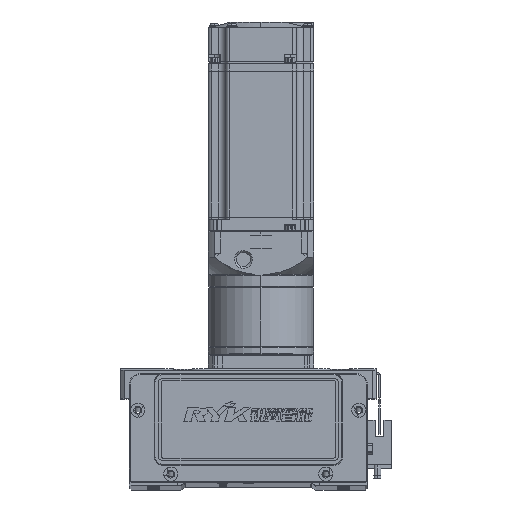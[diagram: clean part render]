
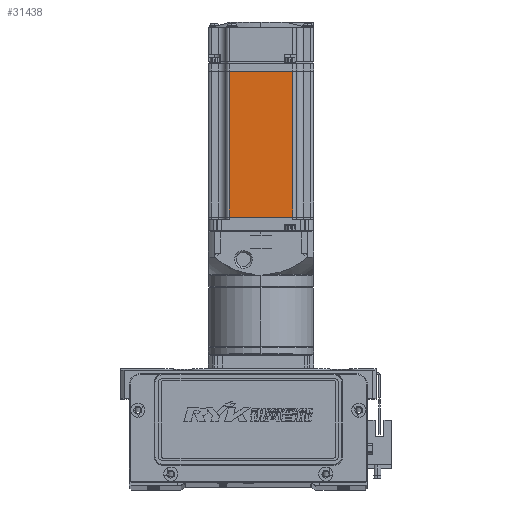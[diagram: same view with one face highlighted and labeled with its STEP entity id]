
A CAD part, top view. The second image highlights one B-rep face of the part: STEP entity #31438.
In plain terms, the highlighted planar face has unit normal (0, 0, 1).
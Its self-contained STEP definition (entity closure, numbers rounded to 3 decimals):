
#2662 = LINE ( 'NONE', #41594, #71873 ) ;
#3227 = PLANE ( 'NONE',  #10774 ) ;
#4185 = VERTEX_POINT ( 'NONE', #62321 ) ;
#7258 = EDGE_CURVE ( 'NONE', #12656, #53605, #2662, .T. ) ;
#9299 = CARTESIAN_POINT ( 'NONE',  ( -6.5, -25., 30. ) ) ;
#10405 = LINE ( 'NONE', #30417, #62796 ) ;
#10774 = AXIS2_PLACEMENT_3D ( 'NONE', #9299, #75146, #62852 ) ;
#12124 = ORIENTED_EDGE ( 'NONE', *, *, #17634, .F. ) ;
#12656 = VERTEX_POINT ( 'NONE', #38130 ) ;
#13417 = ORIENTED_EDGE ( 'NONE', *, *, #7258, .T. ) ;
#17538 = DIRECTION ( 'NONE',  ( 0., -1., 0. ) ) ;
#17634 = EDGE_CURVE ( 'NONE', #20215, #4185, #75536, .T. ) ;
#18297 = CARTESIAN_POINT ( 'NONE',  ( -7.75, 0., 30. ) ) ;
#20215 = VERTEX_POINT ( 'NONE', #32199 ) ;
#25497 = EDGE_CURVE ( 'NONE', #12656, #20215, #52654, .T. ) ;
#29381 = ORIENTED_EDGE ( 'NONE', *, *, #77319, .T. ) ;
#30417 = CARTESIAN_POINT ( 'NONE',  ( -90.45, 0., 30. ) ) ;
#30516 = FACE_OUTER_BOUND ( 'NONE', #71390, .T. ) ;
#31438 = ADVANCED_FACE ( 'NONE', ( #30516 ), #3227, .T. ) ;
#32199 = CARTESIAN_POINT ( 'NONE',  ( -7.75, -18., 30. ) ) ;
#38130 = CARTESIAN_POINT ( 'NONE',  ( -7.75, 18., 30. ) ) ;
#40157 = CARTESIAN_POINT ( 'NONE',  ( -90.45, 18., 30. ) ) ;
#41594 = CARTESIAN_POINT ( 'NONE',  ( -6.5, 18., 30. ) ) ;
#49235 = CARTESIAN_POINT ( 'NONE',  ( -6.5, -18., 30. ) ) ;
#51731 = VECTOR ( 'NONE', #17538, 1000. ) ;
#52654 = LINE ( 'NONE', #18297, #51731 ) ;
#53605 = VERTEX_POINT ( 'NONE', #40157 ) ;
#54896 = DIRECTION ( 'NONE',  ( 0., -1., 0. ) ) ;
#61452 = DIRECTION ( 'NONE',  ( -1., 0., 0. ) ) ;
#62321 = CARTESIAN_POINT ( 'NONE',  ( -90.45, -18., 30. ) ) ;
#62796 = VECTOR ( 'NONE', #54896, 1000. ) ;
#62852 = DIRECTION ( 'NONE',  ( 1., 0., 0. ) ) ;
#71390 = EDGE_LOOP ( 'NONE', ( #71798, #13417, #29381, #12124 ) ) ;
#71798 = ORIENTED_EDGE ( 'NONE', *, *, #25497, .F. ) ;
#71873 = VECTOR ( 'NONE', #61452, 1000. ) ;
#74547 = VECTOR ( 'NONE', #76166, 1000. ) ;
#75146 = DIRECTION ( 'NONE',  ( 0., 0., 1. ) ) ;
#75536 = LINE ( 'NONE', #49235, #74547 ) ;
#76166 = DIRECTION ( 'NONE',  ( -1., 0., 0. ) ) ;
#77319 = EDGE_CURVE ( 'NONE', #53605, #4185, #10405, .T. ) ;
